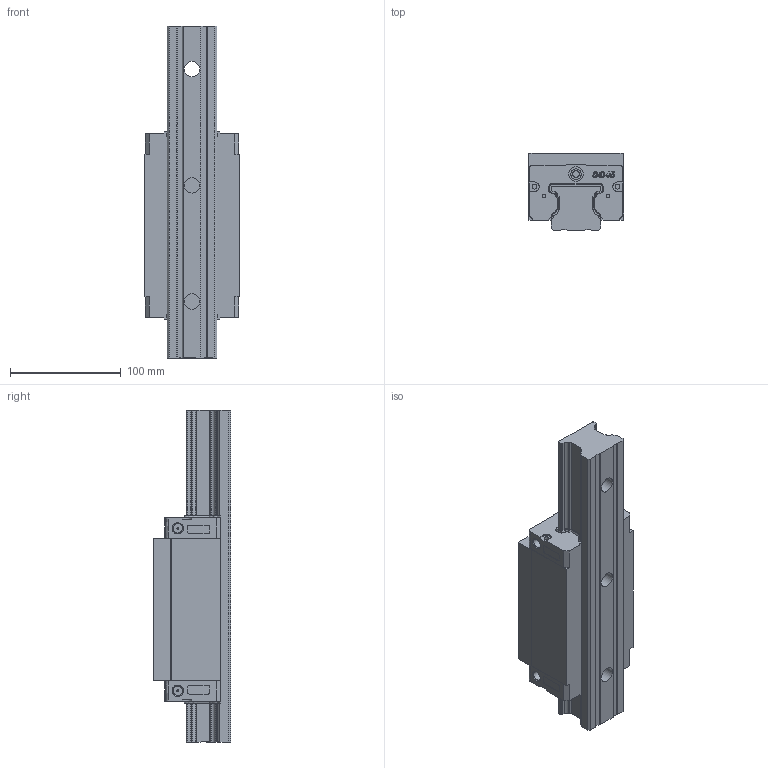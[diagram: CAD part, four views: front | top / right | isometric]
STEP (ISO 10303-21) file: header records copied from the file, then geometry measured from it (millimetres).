
FILE_DESCRIPTION(/* description */ (''),/* implementation_level */ '2;1');
FILE_NAME(/* name */ 'SGH45BL.stp',/* time_stamp */ '2021-05-27T16:21:14+08:00',/* author */ (''),/* organization */ (''),/* preprocessor_version */ 'ST-DEVELOPER v15',/* originating_system */ 'SIEMENS PLM Software NX 8.5',/* authorisation */ '');
FILE_SCHEMA (('CONFIG_CONTROL_DESIGN'));
Length unit declared in the file: millimetre
Products named in the file (1): SGH45BL
Bounding box: 86 x 70 x 300 mm (x, y, z)
Volume: 1049543.8 mm3; surface area: 138632.8 mm2
Topology: 2 solids, 6 shells, 502 faces, 1363 edges, 916 vertices
Faces by surface type: plane 275, cylinder 88, extrusion 72, cone 59, bspline 4, torus 4
Full cylindrical faces by diameter (mm): 1.5 x4, 3.1 x8, 4.3 x4, 6 x2, 8.5 x8, 9.6 x2, 13 x2, 14 x3, 20 x3
Entity records: 16839 total; most frequent: CARTESIAN_POINT 4690, ORIENTED_EDGE 2568, DIRECTION 2229, EDGE_CURVE 1284, VERTEX_POINT 889, VECTOR 801, LINE 729, AXIS2_PLACEMENT_3D 714
